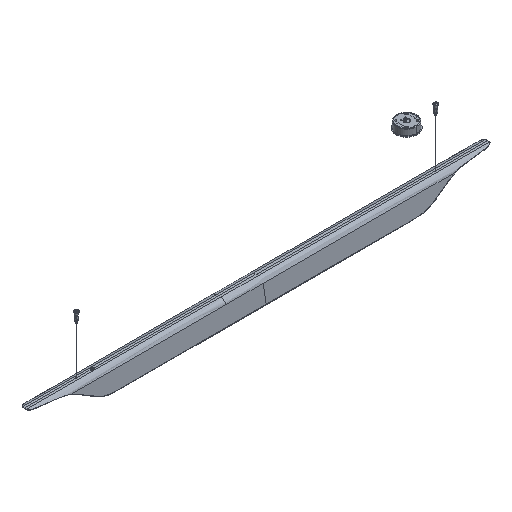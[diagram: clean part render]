
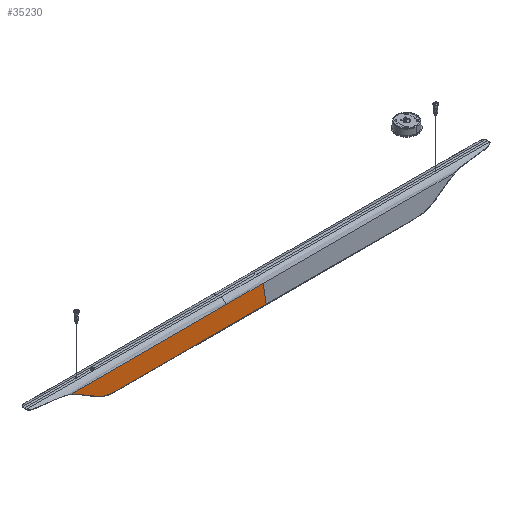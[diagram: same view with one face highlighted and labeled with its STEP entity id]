
A CAD part, isometric view. The second image highlights one B-rep face of the part: STEP entity #35230.
In plain terms, the highlighted planar face has unit normal (0, -0.985, 0.174).
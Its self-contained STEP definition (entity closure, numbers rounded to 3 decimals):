
#225 = CARTESIAN_POINT ( 'NONE',  ( -298., -40.5, 28.747 ) ) ;
#674 = PLANE ( 'NONE',  #38059 ) ;
#999 = CARTESIAN_POINT ( 'NONE',  ( -642.059, -39.586, 33.93 ) ) ;
#1039 = ORIENTED_EDGE ( 'NONE', *, *, #11265, .T. ) ;
#1908 = CARTESIAN_POINT ( 'NONE',  ( -654.512, -38.859, 38.052 ) ) ;
#3829 = CARTESIAN_POINT ( 'NONE',  ( -723.459, -32.342, 75.013 ) ) ;
#4290 = CARTESIAN_POINT ( 'NONE',  ( -768.654, -28.426, 97.22 ) ) ;
#4388 = VECTOR ( 'NONE', #61639, 1000. ) ;
#4457 = VERTEX_POINT ( 'NONE', #80683 ) ;
#4747 = CARTESIAN_POINT ( 'NONE',  ( -741.903, -30.546, 85.197 ) ) ;
#6481 = CARTESIAN_POINT ( 'NONE',  ( -298., -28.426, 97.22 ) ) ;
#7328 = EDGE_LOOP ( 'NONE', ( #87528, #65184, #60209, #1039, #44240, #26387 ) ) ;
#7518 = CARTESIAN_POINT ( 'NONE',  ( -706.657, -34.028, 65.451 ) ) ;
#8935 = VERTEX_POINT ( 'NONE', #14562 ) ;
#9337 = CARTESIAN_POINT ( 'NONE',  ( -700.982, -34.6, 62.205 ) ) ;
#11233 = CARTESIAN_POINT ( 'NONE',  ( -753.084, -29.554, 90.826 ) ) ;
#11265 = EDGE_CURVE ( 'NONE', #4457, #8935, #83019, .T. ) ;
#11696 = CARTESIAN_POINT ( 'NONE',  ( -755.934, -29.324, 92.132 ) ) ;
#12607 = CARTESIAN_POINT ( 'NONE',  ( -740.973, -30.634, 84.7 ) ) ;
#14562 = CARTESIAN_POINT ( 'NONE',  ( 0., -28.426, 97.22 ) ) ;
#15386 = CARTESIAN_POINT ( 'NONE',  ( -648.343, -39.252, 35.827 ) ) ;
#15579 = CARTESIAN_POINT ( 'NONE',  ( -298., -40.5, 28.747 ) ) ;
#15839 = CARTESIAN_POINT ( 'NONE',  ( -722.409, -32.446, 74.421 ) ) ;
#16306 = CARTESIAN_POINT ( 'NONE',  ( -666.474, -37.923, 43.365 ) ) ;
#17854 = CARTESIAN_POINT ( 'NONE',  ( -571., -40.5, 28.747 ) ) ;
#18484 = DIRECTION ( 'NONE',  ( 1., 0., 0. ) ) ;
#19124 = CARTESIAN_POINT ( 'NONE',  ( -760.76, -28.949, 94.259 ) ) ;
#22362 = CARTESIAN_POINT ( 'NONE',  ( -674.256, -37.228, 47.306 ) ) ;
#23278 = CARTESIAN_POINT ( 'NONE',  ( -611.794, -40.382, 29.414 ) ) ;
#24948 = EDGE_CURVE ( 'NONE', #64692, #45367, #71516, .T. ) ;
#25210 = CARTESIAN_POINT ( 'NONE',  ( -744.703, -30.287, 86.67 ) ) ;
#26171 = VERTEX_POINT ( 'NONE', #30009 ) ;
#26387 = ORIENTED_EDGE ( 'NONE', *, *, #50218, .T. ) ;
#27497 = CARTESIAN_POINT ( 'NONE',  ( -582.418, -40.499, 28.753 ) ) ;
#28854 = CARTESIAN_POINT ( 'NONE',  ( -680.042, -36.685, 50.383 ) ) ;
#28980 = DIRECTION ( 'NONE',  ( 0., -0.985, 0.174 ) ) ;
#29315 = CARTESIAN_POINT ( 'NONE',  ( -722.934, -32.394, 74.717 ) ) ;
#30009 = CARTESIAN_POINT ( 'NONE',  ( -149., -28.426, 97.22 ) ) ;
#30229 = CARTESIAN_POINT ( 'NONE',  ( -660.545, -38.411, 40.593 ) ) ;
#30582 = EDGE_CURVE ( 'NONE', #79053, #45367, #62291, .T. ) ;
#30697 = CARTESIAN_POINT ( 'NONE',  ( -624.878, -40.178, 30.572 ) ) ;
#32159 = CARTESIAN_POINT ( 'NONE',  ( -750.271, -29.788, 89.498 ) ) ;
#35230 = ADVANCED_FACE ( 'NONE', ( #86558 ), #674, .T. ) ;
#35548 = CARTESIAN_POINT ( 'NONE',  ( -768.654, -28.426, 97.22 ) ) ;
#35843 = CARTESIAN_POINT ( 'NONE',  ( -668.43, -37.753, 44.328 ) ) ;
#36276 = CARTESIAN_POINT ( 'NONE',  ( -662.53, -38.252, 41.496 ) ) ;
#36740 = CARTESIAN_POINT ( 'NONE',  ( -708.553, -33.837, 66.535 ) ) ;
#37661 = CARTESIAN_POINT ( 'NONE',  ( -695.29, -35.173, 58.959 ) ) ;
#38059 = AXIS2_PLACEMENT_3D ( 'NONE', #225, #28980, #63822 ) ;
#38401 = VECTOR ( 'NONE', #18484, 1000. ) ;
#38704 = EDGE_CURVE ( 'NONE', #79053, #4457, #86194, .T. ) ;
#39133 = CARTESIAN_POINT ( 'NONE',  ( -727.129, -31.977, 77.083 ) ) ;
#41782 = LINE ( 'NONE', #6481, #66013 ) ;
#42228 = DIRECTION ( 'NONE',  ( -1., 0., 0. ) ) ;
#42348 = CARTESIAN_POINT ( 'NONE',  ( -571., -40.5, 28.747 ) ) ;
#43279 = CARTESIAN_POINT ( 'NONE',  ( -618.347, -40.301, 29.878 ) ) ;
#43719 = CARTESIAN_POINT ( 'NONE',  ( -650.413, -39.127, 36.535 ) ) ;
#44179 = CARTESIAN_POINT ( 'NONE',  ( -631.38, -40.013, 31.508 ) ) ;
#44240 = ORIENTED_EDGE ( 'NONE', *, *, #70405, .F. ) ;
#44648 = CARTESIAN_POINT ( 'NONE',  ( -672.322, -37.405, 46.299 ) ) ;
#45367 = VERTEX_POINT ( 'NONE', #64998 ) ;
#46118 = CARTESIAN_POINT ( 'NONE',  ( -730.807, -31.615, 79.139 ) ) ;
#46565 = CARTESIAN_POINT ( 'NONE',  ( -743.766, -30.373, 86.181 ) ) ;
#50218 = EDGE_CURVE ( 'NONE', #26171, #64692, #41782, .T. ) ;
#51131 = CARTESIAN_POINT ( 'NONE',  ( -702.872, -34.41, 63.286 ) ) ;
#51551 = VECTOR ( 'NONE', #71331, 1000. ) ;
#51597 = CARTESIAN_POINT ( 'NONE',  ( -651.442, -39.062, 36.904 ) ) ;
#52065 = CARTESIAN_POINT ( 'NONE',  ( -592.363, -40.488, 28.814 ) ) ;
#54428 = CARTESIAN_POINT ( 'NONE',  ( -738.191, -30.898, 83.202 ) ) ;
#57179 = CARTESIAN_POINT ( 'NONE',  ( -683.865, -36.311, 52.503 ) ) ;
#57642 = CARTESIAN_POINT ( 'NONE',  ( -656.533, -38.715, 38.87 ) ) ;
#58549 = CARTESIAN_POINT ( 'NONE',  ( -635.687, -39.867, 32.339 ) ) ;
#59027 = CARTESIAN_POINT ( 'NONE',  ( -697.191, -34.982, 60.042 ) ) ;
#59404 = LINE ( 'NONE', #87739, #38401 ) ;
#60209 = ORIENTED_EDGE ( 'NONE', *, *, #38704, .T. ) ;
#61639 = DIRECTION ( 'NONE',  ( 0., 0.174, 0.985 ) ) ;
#62291 = B_SPLINE_CURVE_WITH_KNOTS ( 'NONE', 3,
 ( #42348, #70664, #27497, #52065, #79928, #72951, #79463, #72022, #23278, #64596, #43279, #86888, #30697, #44179, #58549, #999, #78559, #79016, #15386, #43719, #51597, #1908, #57642, #30229, #36276, #16306, #35843, #44648, #22362, #28854, #57179, #65059, #72490, #37661, #59027, #9337, #51131, #7518, #36740, #64160, #71582, #15839, #29315, #87354 ),
 .UNSPECIFIED., .F., .F.,
 ( 4, 2, 2, 2, 2, 2, 2, 2, 2, 2, 2, 2, 2, 2, 2, 2, 2, 2, 2, 2, 2, 4 ),
 ( 50.546, 63.676, 76.806, 83.371, 89.938, 96.505, 103.071, 116.198, 122.769, 126.053, 129.337, 135.895, 142.453, 149.012, 155.57, 168.724, 175.307, 181.89, 188.441, 195.014, 208.208, 210.023 ),
 .UNSPECIFIED. ) ;
#62577 = CARTESIAN_POINT ( 'NONE',  ( 0., -40.5, 28.747 ) ) ;
#63822 = DIRECTION ( 'NONE',  ( 0., 0.174, 0.985 ) ) ;
#64160 = CARTESIAN_POINT ( 'NONE',  ( -714.257, -33.262, 69.794 ) ) ;
#64596 = CARTESIAN_POINT ( 'NONE',  ( -616.165, -40.332, 29.702 ) ) ;
#64692 = VERTEX_POINT ( 'NONE', #35548 ) ;
#64998 = CARTESIAN_POINT ( 'NONE',  ( -723.459, -32.342, 75.013 ) ) ;
#65059 = CARTESIAN_POINT ( 'NONE',  ( -689.582, -35.744, 55.72 ) ) ;
#65184 = ORIENTED_EDGE ( 'NONE', *, *, #30582, .F. ) ;
#66013 = VECTOR ( 'NONE', #42228, 1000. ) ;
#68362 = CARTESIAN_POINT ( 'NONE',  ( -754.977, -29.4, 91.7 ) ) ;
#70405 = EDGE_CURVE ( 'NONE', #26171, #8935, #59404, .T. ) ;
#70664 = CARTESIAN_POINT ( 'NONE',  ( -581.834, -40.5, 28.747 ) ) ;
#71331 = DIRECTION ( 'NONE',  ( 1., 0., 0. ) ) ;
#71516 = B_SPLINE_CURVE_WITH_KNOTS ( 'NONE', 3,
 ( #4290, #76241, #19124, #11696, #68362, #11233, #32159, #75785, #25210, #46565, #4747, #12607, #54428, #74867, #46118, #39133, #3829 ),
 .UNSPECIFIED., .F., .F.,
 ( 4, 2, 2, 1, 2, 2, 2, 2, 4 ),
 ( 0., 12.533, 15.666, 18.799, 25.066, 28.199, 31.332, 37.599, 50.132 ),
 .UNSPECIFIED. ) ;
#71582 = CARTESIAN_POINT ( 'NONE',  ( -718.067, -32.879, 71.966 ) ) ;
#72022 = CARTESIAN_POINT ( 'NONE',  ( -609.609, -40.402, 29.301 ) ) ;
#72490 = CARTESIAN_POINT ( 'NONE',  ( -691.485, -35.554, 56.798 ) ) ;
#72951 = CARTESIAN_POINT ( 'NONE',  ( -603.059, -40.448, 29.044 ) ) ;
#74867 = CARTESIAN_POINT ( 'NONE',  ( -736.342, -31.077, 82.19 ) ) ;
#75785 = CARTESIAN_POINT ( 'NONE',  ( -747.499, -30.033, 88.11 ) ) ;
#76241 = CARTESIAN_POINT ( 'NONE',  ( -764.669, -28.674, 95.818 ) ) ;
#78559 = CARTESIAN_POINT ( 'NONE',  ( -644.165, -39.483, 34.517 ) ) ;
#79016 = CARTESIAN_POINT ( 'NONE',  ( -647.303, -39.311, 35.488 ) ) ;
#79053 = VERTEX_POINT ( 'NONE', #17854 ) ;
#79463 = CARTESIAN_POINT ( 'NONE',  ( -605.226, -40.435, 29.116 ) ) ;
#79928 = CARTESIAN_POINT ( 'NONE',  ( -596.383, -40.478, 28.87 ) ) ;
#80683 = CARTESIAN_POINT ( 'NONE',  ( 0., -40.5, 28.747 ) ) ;
#83019 = LINE ( 'NONE', #62577, #4388 ) ;
#86194 = LINE ( 'NONE', #15579, #51551 ) ;
#86558 = FACE_OUTER_BOUND ( 'NONE', #7328, .T. ) ;
#86888 = CARTESIAN_POINT ( 'NONE',  ( -622.706, -40.224, 30.313 ) ) ;
#87354 = CARTESIAN_POINT ( 'NONE',  ( -723.459, -32.342, 75.013 ) ) ;
#87528 = ORIENTED_EDGE ( 'NONE', *, *, #24948, .T. ) ;
#87739 = CARTESIAN_POINT ( 'NONE',  ( 298., -28.426, 97.22 ) ) ;
